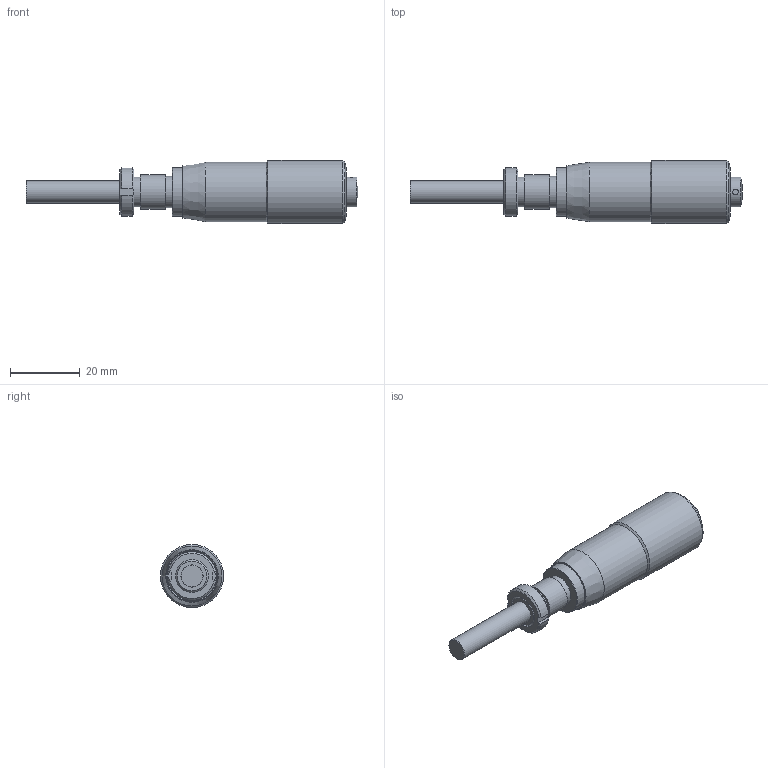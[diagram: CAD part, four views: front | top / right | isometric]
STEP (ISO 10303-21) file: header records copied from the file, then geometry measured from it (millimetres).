
FILE_DESCRIPTION((''),'2;1');
FILE_NAME('\\192.168.131.2\Tech_Server_Meka\Public1\3DDATA\2_OpticalHard\01_国内製品\5_Actuators\SHN2-25\SHN2-25.stp','2010-02-08T09:19:05',('okegawa'),(''),'Autodesk Inventor 2008','Autodesk Inventor 2008','');
FILE_SCHEMA(('AUTOMOTIVE_DESIGN { 1 0 10303 214 1 1 1 1 }'));
Length unit declared in the file: millimetre
Products named in the file (3): SHN2-25-C1-S03; SHN2-25-C1-S02; SHN2-25-C1-S01
Assembly tree (2 placements, depth 2):
  SHN2-25-C1-S03
    SHN2-25-C1-S02
    SHN2-25-C1-S01
Bounding box: 95.37 x 18.1 x 18.1 mm (x, y, z)
Volume: 13552.8 mm3; surface area: 10585.9 mm2
Topology: 2 solids, 2 shells, 61 faces, 116 edges, 74 vertices
Faces by surface type: plane 24, cylinder 18, cone 17, bspline 1, sphere 1
Full cylindrical faces by diameter (mm): 1.6 x1, 6 x1, 6.35 x2, 8.3 x2, 8.4 x1, 8.5 x2, 9 x1, 10 x1, 13.4 x1, 14 x1, 14.2 x1, 17.1 x1, 18.1 x1
Entity records: 1505 total; most frequent: CARTESIAN_POINT 297, DIRECTION 258, ORIENTED_EDGE 168, AXIS2_PLACEMENT_3D 119, EDGE_LOOP 108, EDGE_CURVE 84, VERTEX_POINT 72, FACE_OUTER_BOUND 61
